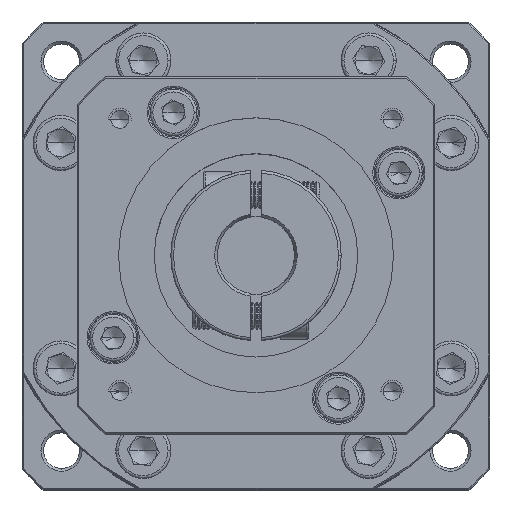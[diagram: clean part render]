
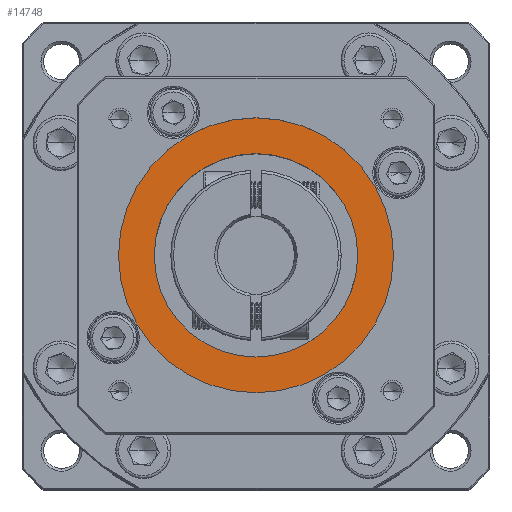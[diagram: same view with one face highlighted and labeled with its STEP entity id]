
A CAD part, top view. The second image highlights one B-rep face of the part: STEP entity #14748.
In plain terms, the highlighted planar face has unit normal (0, 0, 1).
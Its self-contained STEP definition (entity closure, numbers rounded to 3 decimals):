
#6278 = CARTESIAN_POINT ( 'NONE',  ( -56.095, 41.122, -10.431 ) ) ;
#9010 = CARTESIAN_POINT ( 'NONE',  ( -31.095, 41.122, -10.431 ) ) ;
#10653 = CARTESIAN_POINT ( 'NONE',  ( -81.095, 41.122, -10.431 ) ) ;
#14748 = ADVANCED_FACE ( 'NONE', ( #20752, #22285 ), #44144, .T. ) ;
#15292 = VERTEX_POINT ( 'NONE', #96588 ) ;
#20752 = FACE_OUTER_BOUND ( 'NONE', #107356, .T. ) ;
#20980 = DIRECTION ( 'NONE',  ( 1., 0., 0. ) ) ;
#22285 = FACE_BOUND ( 'NONE', #30881, .T. ) ;
#27378 = DIRECTION ( 'NONE',  ( 0., 0., -1. ) ) ;
#30305 = DIRECTION ( 'NONE',  ( 1., 0., 0. ) ) ;
#30881 = EDGE_LOOP ( 'NONE', ( #131661, #97347 ) ) ;
#31028 = CARTESIAN_POINT ( 'NONE',  ( -56.095, 41.122, -10.431 ) ) ;
#38980 = VERTEX_POINT ( 'NONE', #79358 ) ;
#40116 = CARTESIAN_POINT ( 'NONE',  ( -56.095, 41.122, -10.431 ) ) ;
#44144 = PLANE ( 'NONE',  #123317 ) ;
#47279 = CARTESIAN_POINT ( 'NONE',  ( -56.095, 41.122, -10.431 ) ) ;
#58168 = ORIENTED_EDGE ( 'NONE', *, *, #113338, .T. ) ;
#58229 = DIRECTION ( 'NONE',  ( 1., 0., 0. ) ) ;
#59809 = AXIS2_PLACEMENT_3D ( 'NONE', #6278, #27378, #58229 ) ;
#63629 = EDGE_CURVE ( 'NONE', #66431, #68281, #81508, .T. ) ;
#66431 = VERTEX_POINT ( 'NONE', #9010 ) ;
#68281 = VERTEX_POINT ( 'NONE', #10653 ) ;
#71452 = CARTESIAN_POINT ( 'NONE',  ( -56.095, 41.122, -10.431 ) ) ;
#71630 = DIRECTION ( 'NONE',  ( 1., 0., 0. ) ) ;
#71831 = EDGE_CURVE ( 'NONE', #15292, #38980, #116214, .T. ) ;
#74390 = CIRCLE ( 'NONE', #118252, 25. ) ;
#75850 = AXIS2_PLACEMENT_3D ( 'NONE', #31028, #83559, #71630 ) ;
#79358 = CARTESIAN_POINT ( 'NONE',  ( -37.595, 41.122, -10.431 ) ) ;
#81508 = CIRCLE ( 'NONE', #108984, 25. ) ;
#83559 = DIRECTION ( 'NONE',  ( 0., 0., -1. ) ) ;
#86461 = EDGE_CURVE ( 'NONE', #38980, #15292, #98143, .T. ) ;
#92817 = DIRECTION ( 'NONE',  ( 0., 0., 1. ) ) ;
#96588 = CARTESIAN_POINT ( 'NONE',  ( -74.595, 41.122, -10.431 ) ) ;
#97347 = ORIENTED_EDGE ( 'NONE', *, *, #71831, .T. ) ;
#98143 = CIRCLE ( 'NONE', #59809, 18.5 ) ;
#107356 = EDGE_LOOP ( 'NONE', ( #123522, #58168 ) ) ;
#108984 = AXIS2_PLACEMENT_3D ( 'NONE', #71452, #92817, #20980 ) ;
#113338 = EDGE_CURVE ( 'NONE', #68281, #66431, #74390, .T. ) ;
#116214 = CIRCLE ( 'NONE', #75850, 18.5 ) ;
#118252 = AXIS2_PLACEMENT_3D ( 'NONE', #40116, #121033, #30305 ) ;
#118349 = DIRECTION ( 'NONE',  ( 0., 0., 1. ) ) ;
#121033 = DIRECTION ( 'NONE',  ( 0., 0., 1. ) ) ;
#123317 = AXIS2_PLACEMENT_3D ( 'NONE', #47279, #118349, #129081 ) ;
#123522 = ORIENTED_EDGE ( 'NONE', *, *, #63629, .T. ) ;
#129081 = DIRECTION ( 'NONE',  ( 1., 0., 0. ) ) ;
#131661 = ORIENTED_EDGE ( 'NONE', *, *, #86461, .T. ) ;
